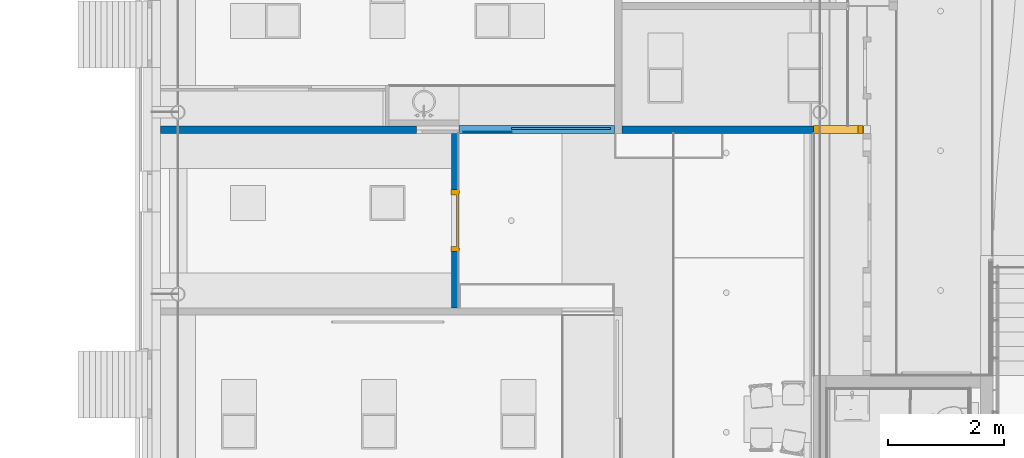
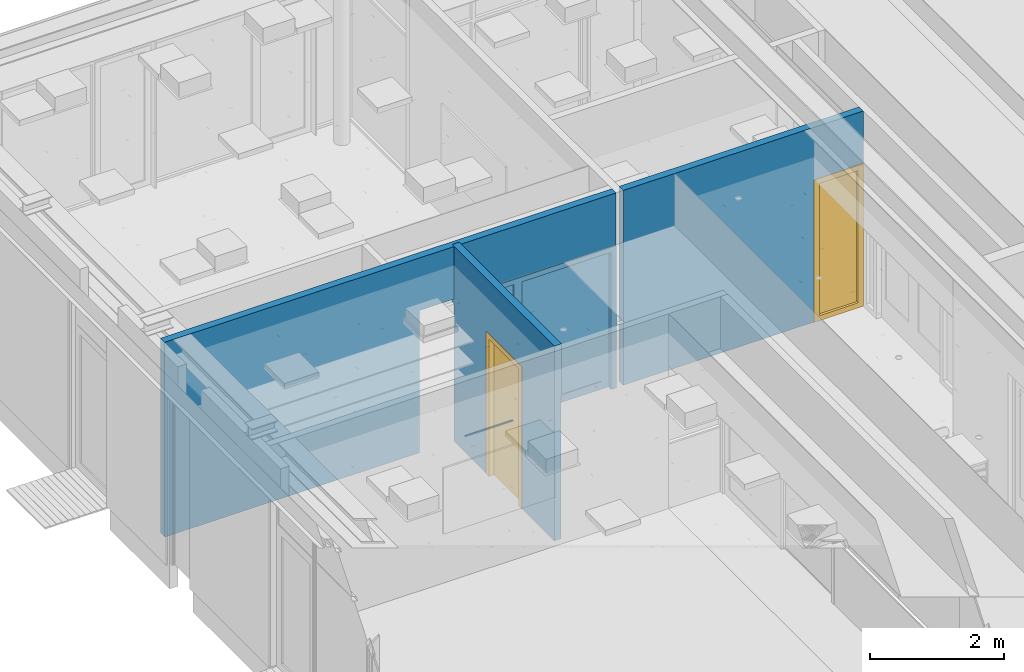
# One storey, part 64 of 347: 4 building element parts, 2 walls, 1 door, 1 window, 3 openings, 1 element without a shape of its own.
"""IFC2X3 building model written with IfcOpenShell, lengths in millimetres."""

from ifc_helpers import new_model, entity, si_unit, converted_unit, derived_unit, money_unit, direction, frame, origin_with_axes, place, context, subcontext, project, spatial, open_shell, faceted_brep, surface_model, source, transform, mapped, material, type_object, type_shapes, element, fill, aggregate, save


model = new_model("IFC2X3")

# Units and contexts
model_context = context("Model", 3, precision=0.01, world=origin_with_axes(), true_north=direction((0.0, 1.0)))
plan_context = context("Plan", 3, precision=0.01, world=origin_with_axes(), true_north=direction((0.0, 1.0)))
body_context = subcontext(model_context, "Body", "Model", "MODEL_VIEW")
ifc_project = project(units=[si_unit("LENGTHUNIT", "METRE", prefix="MILLI"), si_unit("AREAUNIT", "SQUARE_METRE"), si_unit("VOLUMEUNIT", "CUBIC_METRE"), converted_unit("PLANEANGLEUNIT", "DEGREE", entity("IfcPlaneAngleMeasure", 0.0174532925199), si_unit("PLANEANGLEUNIT", "RADIAN"), dimensions=[0, 0, 0, 0, 0, 0, 0]), money_unit("EUR"), converted_unit("TIMEUNIT", "Year", entity("IfcTimeMeasure", 31556926.0), si_unit("TIMEUNIT", "SECOND"), dimensions=[0, 0, 1, 0, 0, 0, 0]), si_unit("MASSUNIT", "GRAM", prefix="KILO"), si_unit("THERMODYNAMICTEMPERATUREUNIT", "DEGREE_CELSIUS"), si_unit("LUMINOUSINTENSITYUNIT", "LUMEN"), si_unit("ENERGYUNIT", "JOULE", prefix="MEGA"), derived_unit("THERMALCONDUCTANCEUNIT", [(si_unit("POWERUNIT", "WATT"), 1), (si_unit("LENGTHUNIT", "METRE"), -1), (si_unit("THERMODYNAMICTEMPERATUREUNIT", "KELVIN"), -1)]), derived_unit("SPECIFICHEATCAPACITYUNIT", [(si_unit("ENERGYUNIT", "JOULE"), 1), (si_unit("MASSUNIT", "GRAM", prefix="KILO"), -1), (si_unit("THERMODYNAMICTEMPERATUREUNIT", "KELVIN"), -1)]), derived_unit("MASSDENSITYUNIT", [(si_unit("MASSUNIT", "GRAM", prefix="KILO"), 1), (si_unit("VOLUMEUNIT", "CUBIC_METRE"), -1)])], contexts=[model_context, plan_context])

# Site, building, storey
site_placement = place(None, origin_with_axes())
site = spatial("IfcSite", under=ifc_project, at=site_placement, Name="Site", CompositionType="ELEMENT")
building_placement = place(site_placement, origin_with_axes())
building = spatial("IfcBuilding", under=site, at=building_placement, Name="Naam gebouw", CompositionType="ELEMENT")
storey_placement = place(building_placement, origin_with_axes())
storey = spatial("IfcBuildingStorey", under=building, at=storey_placement, Name="begane grond", CompositionType="ELEMENT", Elevation=0.0)

# Wall, openings, window
ifc_material_1 = material(Name="ALG - LICHTE SCHEIDINGSWAND")
wall_type = type_object("IfcWallType", Name="ALG LSW 125 125", PredefinedType="NOTDEFINED")
wall_1_placement = place(storey_placement, frame((24275.0, 39025.0, 0.0), z_axis=(0.0, 0.0, 1.0), x_axis=(1.0, 0.0, 0.0)))
wall_1 = element("IfcWall", 1, at=wall_1_placement, inside=storey, type_object=wall_type, material=ifc_material_1, Name="22_GF 125 ECO DGS/2.75.2A", context=body_context, shape_type="Brep", body=[
    faceted_brep([(11799.9995573, -62.5005331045, 2600.0), (11799.9995725, 62.5, 2600.0), (11799.9995725, 62.5, 2612.0), (11799.9995573, -62.5005331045, 2612.0), (11220.0, 62.5, 2600.0), (11220.0, -62.5005331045, 2600.0), (11220.0, 62.5, 0.0), (7925.0, 62.5, -1.48422776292e-05), (7925.0, 62.5, 3559.99999894), (12075.0, 62.5, 3559.99999995), (12075.0, 62.5, 2612.0), (12075.0, -62.5, 2612.0), (12075.0, -62.5, 3559.99999995), (7925.0, -62.5, 3559.99999894), (7925.0, -62.5, -1.48422776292e-05), (11220.0, -62.5, 0.0)], [[[0, 1, 2, 3]], [[4, 1, 0, 5]], [[4, 6, 7, 8, 9, 10, 2, 1]], [[3, 2, 10, 11]], [[5, 0, 3, 11, 12, 13, 14, 15]], [[6, 4, 5, 15]], [[6, 15, 14, 7]], [[14, 13, 8, 7]], [[9, 8, 13, 12]], [[12, 11, 10, 9]]]),
    faceted_brep([(12068.0, 62.5, 0.0), (12068.0, 62.5, 90.0), (12075.0, 62.5, 90.0), (12075.0, 62.5, -7.63317187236e-07), (12068.0, -62.5005331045, 90.0), (12068.0, -62.5, 0.0), (12075.0, -62.5, 90.0), (12075.0, -62.5, -7.63317187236e-07)], [[[0, 1, 2, 3]], [[4, 1, 0, 5]], [[1, 4, 6, 2]], [[2, 6, 7, 3]], [[5, 0, 3, 7]], [[4, 5, 7, 6]]]),
    faceted_brep([(12068.0, 62.5, 2510.0), (12068.0, 62.5, 2600.0), (12075.0, 62.5, 2600.0), (12075.0, 62.5, 2510.0), (12068.0, -62.5000135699, 2600.0), (12068.0, -62.5005331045, 2510.0), (12075.0, -62.5, 2600.0), (12075.0, -62.5, 2510.0)], [[[0, 1, 2, 3]], [[4, 1, 0, 5]], [[1, 4, 6, 2]], [[7, 3, 2, 6]], [[5, 0, 3, 7]], [[4, 5, 7, 6]]]),
    faceted_brep([(7800.0, -62.5, 2600.00000192), (7800.0, 62.5, 2600.00000192), (7800.0, 62.5, 3559.99999891), (7800.0, -62.5, 3559.99999891), (4400.0, 62.5, 2600.00000192), (4400.0, -62.5, 2600.00000192), (4400.0, 62.5, 0.0), (8.1956450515e-06, 62.5, -3.65078798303e-05), (8.1956450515e-06, 62.5, 3560.0), (8.1956450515e-06, -62.5, 3560.0), (8.1956450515e-06, -62.5, -3.65078798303e-05), (4400.0, -62.5, 0.0)], [[[0, 1, 2, 3]], [[4, 1, 0, 5]], [[4, 6, 7, 8, 2, 1]], [[8, 9, 3, 2]], [[5, 0, 3, 9, 10, 11]], [[6, 4, 5, 11]], [[6, 11, 10, 7]], [[8, 7, 10, 9]]]),
])
opening_1_placement = place(wall_1_placement, frame((11644.0, 0.0, 0.0), z_axis=(0.0, 0.0, 1.0), x_axis=(1.0, 0.0, 0.0)))
opening_1 = element("IfcOpeningElement", 2, at=opening_1_placement, cuts=wall_1, Name="31_07.01", context=body_context, shape_type="Brep", body=[
    faceted_brep([(424.0, -257.0, 2600.0), (424.0, -257.0, 0.0), (424.0, 125.0, 0.0), (424.0, 125.0, 2600.0), (-424.0, -257.0, 2600.0), (-424.0, -257.0, 0.0), (-424.0, 125.0, 0.0), (-424.0, 125.0, 2600.0)], [[[0, 1, 2, 3]], [[0, 4, 5, 1]], [[1, 5, 6, 2]], [[3, 2, 6, 7]], [[4, 0, 3, 7]], [[5, 4, 7, 6]]]),
])
opening_2_placement = place(wall_1_placement, frame((6100.0, 0.0, 0.0), z_axis=(0.0, 0.0, 1.0), x_axis=(1.0, 0.0, 0.0)))
opening_2 = element("IfcOpeningElement", 3, at=opening_2_placement, cuts=wall_1, Name="31_06.03", context=body_context, shape_type="Brep", body=[
    faceted_brep([(1700.0, -132.0, 2600.00000192), (1700.0, -132.0, 0.0), (1700.0, 132.0, 0.0), (1700.0, 132.0, 2600.00000192), (-1700.0, -132.0, 2600.00000192), (-1700.0, -132.0, 0.0), (-1700.0, 132.0, 0.0), (-1700.0, 132.0, 2600.00000192)], [[[0, 1, 2, 3]], [[0, 4, 5, 1]], [[1, 5, 6, 2]], [[3, 2, 6, 7]], [[4, 0, 3, 7]], [[5, 4, 7, 6]]]),
])
window_style = type_object("IfcWindowStyle", Name="Rmeerkeuze 25", ConstructionType="NOTDEFINED", OperationType="SINGLE_PANEL", ParameterTakesPrecedence=False, Sizeable=False)
window_placement = place(opening_1_placement, frame((424.0, 0.0, 0.0), z_axis=(0.0, 0.0, 1.0), x_axis=(-1.0, 0.0, 0.0)))
window = element("IfcWindow", 4, at=window_placement, inside=storey, type_object=window_style, Name="31_07.01", ObjectType="WINDOW", OverallHeight=2600.0, OverallWidth=848.0, context=body_context, shape_type="SurfaceModel", body=[
    faceted_brep([(758.0, -69.5, 2510.0), (848.0, -69.5, 2510.0), (848.0, 69.5, 2510.0), (758.0, 69.5, 2510.0), (758.0, -69.5, 90.0), (848.0, -69.5, 90.0), (848.0, 69.5, 90.0), (758.0, 69.5, 90.0)], [[[0, 1, 2, 3]], [[0, 4, 5, 1]], [[1, 5, 6, 2]], [[3, 2, 6, 7]], [[4, 0, 3, 7]], [[5, 4, 7, 6]]]),
    faceted_brep([(90.0, -69.5, 90.0), (0.0, -69.5, 90.0), (0.0, 69.5, 90.0), (90.0, 69.5, 90.0), (90.0, -69.5, 2510.0), (0.0, -69.5, 2510.0), (0.0, 69.5, 2510.0), (90.0, 69.5, 2510.0)], [[[0, 1, 2, 3]], [[0, 4, 5, 1]], [[1, 5, 6, 2]], [[3, 2, 6, 7]], [[4, 0, 3, 7]], [[5, 4, 7, 6]]]),
    faceted_brep([(758.0, -69.5, 90.0), (848.0, -69.5, 90.0), (848.0, 69.5, 90.0), (758.0, 69.5, 90.0), (90.0, -69.5, 90.0), (0.0, -69.5, 90.0), (0.0, -69.5, 0.0), (848.0, -69.5, 0.0), (848.0, 69.5, 0.0), (0.0, 69.5, 0.0), (0.0, 69.5, 90.0), (90.0, 69.5, 90.0)], [[[0, 1, 2, 3]], [[0, 4, 5, 6, 7, 1]], [[1, 7, 8, 2]], [[3, 2, 8, 9, 10, 11]], [[4, 0, 3, 11]], [[5, 4, 11, 10]], [[6, 5, 10, 9]], [[7, 6, 9, 8]]]),
    faceted_brep([(90.0, -69.5, 2510.0), (0.0, -69.5, 2510.0), (0.0, 69.5, 2510.0), (90.0, 69.5, 2510.0), (758.0, -69.5, 2510.0), (848.0, -69.5, 2510.0), (848.0, -69.5, 2600.0), (0.0, -69.5, 2600.0), (0.0, 69.5, 2600.0), (848.0, 69.5, 2600.0), (848.0, 69.5, 2510.0), (758.0, 69.5, 2510.0)], [[[0, 1, 2, 3]], [[0, 4, 5, 6, 7, 1]], [[1, 7, 8, 2]], [[3, 2, 8, 9, 10, 11]], [[4, 0, 3, 11]], [[5, 4, 11, 10]], [[6, 5, 10, 9]], [[7, 6, 9, 8]]]),
    surface_model("IfcShellBasedSurfaceModel", [(758.0, 5.5, 90.0), (758.0, 5.5, 2510.0), (90.0, 5.5, 2510.0), (90.0, 5.5, 90.0)], [open_shell([[[0, 1, 2, 3]]])]),
    surface_model("IfcShellBasedSurfaceModel", [(758.0, 25.5, 90.0), (90.0, 25.5, 90.0), (90.0, 25.5, 2510.0), (758.0, 25.5, 2510.0)], [open_shell([[[0, 1, 2, 3]]])]),
])
fill(opening_1, window)

# Wall, opening, door
wall_2_placement = place(storey_placement, frame((29400.0, 39022.5, 0.0), z_axis=(0.0, 0.0, 1.0), x_axis=(0.0, -1.0, 0.0)))
wall_2 = element("IfcWall", 5, at=wall_2_placement, inside=storey, type_object=wall_type, material=ifc_material_1, Name="22_GF 125 ECO DGS/2.75.2A", context=body_context, shape_type="Brep", body=[
    faceted_brep([(2091.99998207, 0.0, 2600.0), (1027.99998207, 0.0, 2600.0), (60.0, 0.0, 2600.0), (60.0, 0.0, 2510.0), (0.0, 0.0, 2510.0), (0.0, 0.0, 3560.0), (3060.0, 0.0, 3560.0), (3060.0, 0.0, 2600.0), (1027.99998207, -12.5, 2600.0), (2091.99998207, -12.5, 2600.0), (2091.99998207, -125.0, 2600.0), (1027.99998207, -125.0, 2600.0), (60.0, -12.5, 2600.0), (60.0, -12.5, 2510.0), (60.0, -125.0, 2510.0), (0.0, -125.0, 2510.0), (0.0, -125.0, 3560.0), (3060.0, -125.0, 3560.0), (3060.0, -125.0, 0.0), (3060.0, -12.5, 0.0), (3060.0, -12.5, 2600.0), (2091.99998207, -12.5, 0.0), (2091.99998207, -125.0, 0.0), (60.0, -125.0, 0.0), (1027.99998207, -125.0, 0.0), (1027.99998207, -12.5, 0.0), (60.0, -12.5, 0.0)], [[[0, 1, 2, 3, 4, 5, 6, 7]], [[8, 1, 0, 9, 10, 11]], [[1, 8, 12, 2]], [[3, 2, 12, 13]], [[13, 14, 15, 4, 3]], [[5, 4, 15, 16]], [[17, 6, 5, 16]], [[6, 17, 18, 19, 20, 7]], [[9, 0, 7, 20]], [[9, 21, 22, 10]], [[10, 22, 18, 17, 16, 15, 14, 23, 24, 11]], [[25, 8, 11, 24]], [[8, 25, 26, 13, 12]], [[13, 26, 23, 14]], [[22, 21, 19, 18]], [[21, 9, 20, 19]], [[25, 24, 23, 26]]]),
])
opening_3_placement = place(wall_2_placement, frame((1559.99998207, 0.0, 0.0), z_axis=(0.0, 0.0, 1.0), x_axis=(1.0, 0.0, 0.0)))
opening_3 = element("IfcOpeningElement", 6, at=opening_3_placement, cuts=wall_2, Name="32_01.03", context=body_context, shape_type="Brep", body=[
    faceted_brep([(-532.0, 257.0, 2600.0), (-532.0, 257.0, 0.0), (-532.0, -125.0, 0.0), (-532.0, -125.0, 2600.0), (532.0, 257.0, 2600.0), (532.0, 257.0, 0.0), (532.0, -125.0, 0.0), (532.0, -125.0, 2600.0)], [[[0, 1, 2, 3]], [[0, 4, 5, 1]], [[1, 5, 6, 2]], [[3, 2, 6, 7]], [[4, 0, 3, 7]], [[5, 4, 7, 6]]]),
])
door_style_1 = type_object("IfcDoorStyle", Name="D1 25", ConstructionType="NOTDEFINED", OperationType="SINGLE_SWING_LEFT", ParameterTakesPrecedence=False, Sizeable=False)
shared_shape_1 = source(origin_with_axes(), body_context, "Body", "Brep", [
    faceted_brep([(442.0, -50.0, 0.0), (442.0, -139.0, 0.0), (442.0, -139.0, 2510.0), (442.0, -50.0, 2510.0), (467.0, -50.0, 0.0), (467.0, 0.0, 0.0), (532.0, 0.0, 0.0), (532.0, -139.0, 0.0), (532.0, -139.0, 2510.0), (467.0, -50.0, 2510.0), (532.0, 0.0, 2510.0), (467.0, 0.0, 2510.0)], [[[0, 1, 2, 3]], [[4, 5, 6, 7, 1, 0]], [[1, 7, 8, 2]], [[9, 3, 2, 8, 10, 11]], [[9, 4, 0, 3]], [[11, 5, 4, 9]], [[11, 10, 6, 5]], [[6, 10, 8, 7]]]),
    faceted_brep([(-467.0, -50.0, 2510.0), (-467.0, 0.0, 2510.0), (-532.0, 0.0, 2510.0), (-532.0, -139.0, 2510.0), (-442.0, -139.0, 2510.0), (-442.0, -50.0, 2510.0), (-467.0, -50.0, 0.0), (-467.0, 0.0, 0.0), (-532.0, 0.0, 0.0), (-532.0, -139.0, 0.0), (-442.0, -139.0, 0.0), (-442.0, -50.0, 0.0)], [[[0, 1, 2, 3, 4, 5]], [[0, 6, 7, 1]], [[7, 8, 2, 1]], [[2, 8, 9, 3]], [[3, 9, 10, 4]], [[5, 4, 10, 11]], [[5, 11, 6, 0]], [[6, 11, 10, 9, 8, 7]]]),
    faceted_brep([(467.0, 0.0, 2535.0), (-467.0, 0.0, 2535.0), (-467.0, 0.0, 2510.0), (-532.0, 0.0, 2510.0), (-532.0, 0.0, 2600.0), (532.0, 0.0, 2600.0), (532.0, 0.0, 2510.0), (467.0, 0.0, 2510.0), (467.0, -50.0, 2535.0), (-467.0, -50.0, 2535.0), (-467.0, -50.0, 2510.0), (-442.0, -50.0, 2510.0), (-442.0, -139.0, 2510.0), (-532.0, -139.0, 2510.0), (-532.0, -139.0, 2600.0), (532.0, -139.0, 2600.0), (532.0, -139.0, 2510.0), (467.0, -50.0, 2510.0), (442.0, -139.0, 2510.0), (442.0, -50.0, 2510.0)], [[[0, 1, 2, 3, 4, 5, 6, 7]], [[0, 8, 9, 1]], [[1, 9, 10, 2]], [[10, 11, 12, 13, 3, 2]], [[4, 3, 13, 14]], [[5, 4, 14, 15]], [[6, 5, 15, 16]], [[17, 7, 6, 16, 18, 19]], [[7, 17, 8, 0]], [[10, 9, 8, 17, 19, 11]], [[19, 18, 12, 11]], [[12, 18, 16, 15, 14, 13]]]),
    faceted_brep([(-467.0, -10.0, 0.0), (467.0, -10.0, 0.0), (467.0, -50.0, 0.0), (-467.0, -50.0, 0.0), (-467.0, -10.0, 2535.0), (467.0, -10.0, 2535.0), (467.0, -50.0, 2535.0), (-467.0, -50.0, 2535.0)], [[[0, 1, 2, 3]], [[0, 4, 5, 1]], [[1, 5, 6, 2]], [[3, 2, 6, 7]], [[4, 0, 3, 7]], [[5, 4, 7, 6]]]),
])
type_shapes(door_style_1, [shared_shape_1])
door_1_placement = place(opening_3_placement, frame((-532.0, 0.0, 0.0), z_axis=(0.0, 0.0, 1.0), x_axis=(1.0, 0.0, 0.0)))
door_1 = element("IfcDoor", 7, at=door_1_placement, inside=storey, type_object=door_style_1, Name="32_01.03", ObjectType="DOOR", OverallHeight=2600.0, OverallWidth=1064.0, context=body_context, shape_type="MappedRepresentation", body=[
    mapped(shared_shape_1, transform((532.0, 7.0, 0.0))),
])
fill(opening_3, door_1)

# Door
door_style_2 = type_object("IfcDoorStyle", Name="32 schuifdeurkozijn 2675 KRAR", ConstructionType="NOTDEFINED", OperationType="NOTDEFINED", ParameterTakesPrecedence=False, Sizeable=False)
door_2_placement = place(opening_2_placement, frame((-1700.0, 0.0, 0.0), z_axis=(0.0, 0.0, 1.0), x_axis=(1.0, 0.0, 0.0)))
door_2 = element("IfcDoor", 8, at=door_2_placement, inside=storey, type_object=door_style_2, Name="31_06.03", ObjectType="DOOR", OverallHeight=2600.0, OverallWidth=3400.0)

fill(opening_2, door_2)

# Building element part
ifc_material_2 = material(Name="Glas")
shared_shape_2 = source(origin_with_axes(), body_context, "Body", "Brep", [
    faceted_brep([(-69.5, -116.000001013, 25.0000000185), (-69.5, -116.000001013, 2510.00002918), (-902.00000001, -115.999999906, 2510.00003068), (-902.00000001, -116.000000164, 25.0000000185), (-69.5, -103.000000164, 2510.00002681), (-69.5, -103.000000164, 25.0000000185), (-902.00000001, -103.000000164, 2510.00003202), (-902.00000001, -103.000000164, 25.0000000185)], [[[0, 1, 2, 3]], [[4, 1, 0, 5]], [[1, 4, 6, 2]], [[2, 6, 7, 3]], [[5, 0, 3, 7]], [[4, 5, 7, 6]]]),
])
building_element_part_1_placement = place(door_2_placement, origin_with_axes())
building_element_part_1 = element("IfcBuildingElementPart", 9, at=building_element_part_1_placement, material=ifc_material_2, Name="Glas", context=body_context, shape_type="MappedRepresentation", body=[
    mapped(shared_shape_2, transform((1700.0, 69.5, 0.0))),
])

ifc_material_3 = material(Name="Metaal - Aluminium")
shared_shape_3 = source(origin_with_axes(), body_context, "Body", "Brep", [
    faceted_brep([(-902.00000001, -97.0000001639, 0.0), (-69.5, -97.0000001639, 0.0), (-69.5, -122.000000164, 0.0), (-902.00000001, -122.000000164, 0.0), (-902.00000001, -97.0000001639, 25.0000000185), (-69.5, -97.0000001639, 25.0000000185), (-69.5, -122.000000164, 25.0000000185), (-902.00000001, -122.000000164, 25.0000000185)], [[[0, 1, 2, 3]], [[0, 4, 5, 1]], [[1, 5, 6, 2]], [[3, 2, 6, 7]], [[4, 0, 3, 7]], [[5, 4, 7, 6]]]),
])
building_element_part_2_placement = place(door_2_placement, origin_with_axes())
building_element_part_2 = element("IfcBuildingElementPart", 10, at=building_element_part_2_placement, material=ifc_material_3, Name="Metaal - Aluminium", context=body_context, shape_type="MappedRepresentation", body=[
    mapped(shared_shape_3, transform((1700.0, 69.5, 0.0))),
])

ifc_material_4 = material(Name="32 Hout binnenkozijn oregon pine")
shared_shape_4 = source(origin_with_axes(), body_context, "Body", "Brep", [
    faceted_brep([(-974.99999792, -71.9999996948, 0.000850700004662), (-885.00000001, -71.9999996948, 0.000850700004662), (-885.00000001, -138.999999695, 0.000850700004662), (-974.99999792, -138.999999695, 0.000850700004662), (-974.99999792, -71.9999996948, 2510.00003655), (-885.00000001, -71.9999996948, 2510.00003655), (-885.00000001, -138.999999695, 2510.00003655), (-974.99999792, -138.999999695, 2510.00003655)], [[[0, 1, 2, 3]], [[0, 4, 5, 1]], [[1, 5, 6, 2]], [[3, 2, 6, 7]], [[4, 0, 3, 7]], [[5, 4, 7, 6]]]),
    faceted_brep([(-52.5000001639, -96.9999998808, 2510.00002571), (-52.5000001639, -96.9999998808, 2527.00002573), (-52.5000001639, -121.999999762, 2527.00003181), (-52.5000001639, -121.999999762, 2510.00003028), (-52.5000001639, -72.0, 2510.00001957), (-52.5000001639, -72.0, 2527.00001958), (-169.5, -97.0000021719, 2527.00002573), (-169.5, -122.000002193, 2527.00003181), (-169.5, -122.000002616, 2510.00003028), (-975.0, -97.0000221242, 2510.00002571), (-975.0, -122.000022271, 2510.00003028), (-975.0, -72.0000221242, 2510.00001957), (4.90274487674e-10, -72.0000212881, 2510.00001919), (4.90274487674e-10, -72.0000071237, 2569.00001862), (-169.5, -72.0000073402, 2569.00001862), (-169.5, -72.000002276, 2527.00001958), (-169.5, -72.0000010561, 2600.0000026), (-169.5, -139.0, 2600.00000384), (-169.5, -139.0, 2510.00000172), (-975.0, -139.000022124, 2510.00003606), (-975.0, -139.000001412, 2600.00003801), (-975.0, 0.0, 2600.00000192), (-975.0, -2.21242113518e-05, 2510.00000187), (-975.0, -27.0000228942, 2510.00000858), (4.90274487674e-10, -27.0000204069, 2510.00000623), (4.90274487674e-10, 0.0, 2600.00000374), (4.90274487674e-10, -72.0000010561, 2600.0000026), (4.90274487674e-10, -2.16067057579e-05, 2510.00000191)], [[[0, 1, 2, 3]], [[1, 0, 4, 5]], [[1, 6, 7, 2]], [[2, 7, 8, 3]], [[9, 0, 3, 8, 10]], [[0, 9, 11, 4]], [[5, 4, 12, 13, 14, 15]], [[6, 1, 5, 15]], [[6, 15, 14, 16, 17, 18, 8, 7]], [[19, 10, 8, 18]], [[9, 10, 19, 20, 21, 22, 23, 11]], [[4, 11, 23, 24, 12]], [[25, 26, 13, 12, 24, 27]], [[26, 16, 14, 13]], [[26, 25, 21, 20, 17, 16]], [[18, 17, 20, 19]], [[25, 27, 22, 21]], [[22, 27, 24, 23]]]),
    faceted_brep([(1634.9999999, -72.0000001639, 2510.00000187), (1634.9999999, -72.0000001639, 2569.00000054), (1699.99999792, -72.0000003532, 2569.00000131), (1699.99999792, -72.0000004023, 2510.00000172), (1634.9999999, -26.9999993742, 2569.00000388), (1634.9999999, -26.9999993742, 2510.00000187), (1699.99999792, -27.0000000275, 2569.00000339), (1699.99999792, -27.0, 2600.00000193), (1699.99999792, -138.999999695, 2600.00000384), (1699.99999792, -138.999999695, 2510.00000172), (69.5000004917, -71.9999995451, 2509.99999993), (-169.5, -139.0, 2510.00000172), (-169.5, -121.999999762, 2510.00003028), (69.5000004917, -121.999999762, 2510.00003028), (0.0, -71.9999995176, 2509.99999985), (0.0, -27.0000014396, 2509.99999985), (1699.99999792, -27.00000008, 2510.00000176), (1699.99999792, 0.0, 2600.00000184), (1699.99999792, 0.0, 2510.00000176), (0.0, 0.0, 2600.00000039), (0.0, -71.9999995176, 2600.00000471), (-169.5, -71.9999995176, 2600.00000471), (-169.5, -139.0, 2600.00000384), (-169.5, -72.0, 2527.0000179), (-169.5, -122.000020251, 2527.00003235), (-169.5, -71.9999995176, 2569.00000131), (69.5000004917, -122.000020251, 2527.00003235), (69.5000004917, -72.0000001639, 2527.0000179), (0.0, -71.9999995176, 2527.0000179), (0.0, -71.9999995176, 2569.00000054), (0.0, -26.9999993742, 2569.00000388), (0.0, 0.0, 2509.99999985)], [[[0, 1, 2, 3]], [[4, 1, 0, 5]], [[1, 4, 6, 2]], [[2, 6, 7, 8, 9, 3]], [[10, 0, 3, 9, 11, 12, 13]], [[0, 10, 14, 15, 5]], [[4, 5, 16, 6]], [[17, 7, 6, 16, 18]], [[19, 20, 21, 22, 8, 7, 17]], [[8, 22, 11, 9]], [[23, 24, 12, 11, 22, 21, 25]], [[26, 13, 12, 24]], [[27, 10, 13, 26]], [[10, 27, 28, 14]], [[28, 29, 30, 15, 14]], [[5, 15, 31, 18, 16]], [[31, 19, 17, 18]], [[30, 29, 20, 19, 31, 15]], [[29, 28, 23, 25, 21, 20]], [[28, 27, 26, 24, 23]]]),
    faceted_brep([(1634.9999999, -72.0000004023, 2569.00000131), (1699.99999792, -72.0000004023, 2569.00000131), (1699.99999792, -26.9999993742, 2569.00000274), (1634.9999999, -26.9999993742, 2569.00000274), (1699.99999792, -72.0000004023, 2510.00000172), (1634.9999999, -72.0000004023, 2510.00000172), (1699.99999792, -138.999999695, 2510.00000172), (1700.0, -139.0, 2.02504679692e-10), (1700.0, 0.0, 2.02504679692e-10), (1699.99999792, 0.0, 2510.00000176), (1699.99999792, -27.00000008, 2510.00000176), (1634.9999999, -27.000000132, 2510.00000168), (1634.9999999, 0.0, 2510.00000168), (1634.9999999, 0.0, 2.02504679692e-10), (1634.9999999, -72.0000001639, 2.02504679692e-10), (1610.00000001, -138.999999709, 2510.00000172), (1610.00000001, -72.0000004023, 2510.00000172), (1610.00000001, -139.0, 2.02504679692e-10), (1610.00000001, -72.0000001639, 2.02504679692e-10)], [[[0, 1, 2, 3]], [[4, 1, 0, 5]], [[4, 6, 7, 8, 9, 10, 2, 1]], [[3, 2, 10, 11]], [[5, 0, 3, 11, 12, 13, 14]], [[15, 6, 4, 5, 16]], [[6, 15, 17, 7]], [[18, 14, 13, 8, 7, 17]], [[12, 9, 8, 13]], [[10, 9, 12, 11]], [[16, 5, 14, 18]], [[15, 16, 18, 17]]]),
    faceted_brep([(-52.5000001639, -72.0, 2510.00001957), (-52.5000001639, -96.9999998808, 2510.00002571), (-52.5000001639, -121.999999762, 2510.00003028), (-52.5000001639, -122.000018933, 2527.00003184), (-52.5000001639, -72.0000021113, 2527.0000179), (-69.5, -97.0000002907, 2510.00002571), (-69.5, -72.0000004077, 2510.00001957), (-69.5, -122.000000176, 2510.00003028), (69.5000009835, -122.000021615, 2510.00002985), (69.5000009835, -122.000018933, 2527.00003184), (69.5000009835, -72.0, 2527.0000179), (69.5, -72.0, -1.98951966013e-10), (-69.5, -72.0, -1.98951966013e-10), (-69.5, -97.0000001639, -1.98951966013e-10), (-69.5, -121.999999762, -1.98951966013e-10), (-69.5, -139.000002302, 2510.00003655), (69.5000009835, -138.99999924, 2510.00003655), (69.5, -138.999999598, -1.98951966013e-10), (-69.5, -138.999999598, -1.98951966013e-10), (-52.5000001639, -121.999999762, -1.98951966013e-10), (-52.5, -97.0000001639, -1.98951966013e-10)], [[[0, 1, 2, 3, 4]], [[5, 1, 0, 6]], [[1, 5, 7, 2]], [[3, 2, 8, 9]], [[10, 4, 3, 9]], [[0, 4, 10, 11, 12, 6]], [[13, 5, 6, 12]], [[5, 13, 14, 7]], [[8, 2, 7, 15, 16]], [[10, 9, 8, 16, 17, 11]], [[12, 11, 17, 18, 14, 19, 20, 13]], [[13, 20, 19, 14]], [[15, 7, 14, 18]], [[18, 17, 16, 15]]]),
])
building_element_part_3_placement = place(door_2_placement, origin_with_axes())
building_element_part_3 = element("IfcBuildingElementPart", 11, at=building_element_part_3_placement, material=ifc_material_4, Name="32 Hout binnenkozijn oregon pine", context=body_context, shape_type="MappedRepresentation", body=[
    mapped(shared_shape_4, transform((1700.0, 69.5, 0.0))),
])

shared_shape_5 = source(origin_with_axes(), body_context, "Body", "SurfaceModel", [
    faceted_brep([(1627.0, -30.0000001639, 150.000034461), (1627.0, -70.0000001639, 150.000034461), (1488.0, -70.0000001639, 150.000034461), (1488.0, -30.0000001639, 150.000034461), (1627.0, -30.0000001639, 2371.00003597), (1627.0, -70.0000001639, 2371.00003597), (1488.0, -70.0000001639, 2371.00003597), (1488.0, -30.0000001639, 2371.00003597)], [[[0, 1, 2, 3]], [[4, 5, 1, 0]], [[1, 5, 6, 2]], [[3, 2, 6, 7]], [[0, 3, 7, 4]], [[7, 6, 5, 4]]]),
    faceted_brep([(-69.5, -30.0000001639, 150.000034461), (-69.5, -70.0000001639, 150.000034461), (-69.5, -70.0000001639, 2371.00003597), (-69.5, -30.0000001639, 2371.00003597), (69.5, -30.0000001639, 150.000034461), (69.5, -70.0000001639, 150.000034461), (69.5, -70.0000001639, 2371.00003597), (69.5, -30.0000001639, 2371.00003597)], [[[0, 1, 2, 3]], [[4, 5, 1, 0]], [[1, 5, 6, 2]], [[3, 2, 6, 7]], [[0, 3, 7, 4]], [[7, 6, 5, 4]]]),
    faceted_brep([(1627.0, -30.0000001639, 11.0000343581), (1627.0, -70.0000001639, 11.0000343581), (-69.5, -70.0000001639, 11.0000343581), (-69.5, -30.0000001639, 11.0000343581), (1627.0, -30.0000001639, 150.000034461), (1627.0, -70.0000001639, 150.000034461), (1488.0, -70.0000001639, 150.000034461), (69.5, -70.0000001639, 150.000034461), (-69.5, -70.0000001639, 150.000034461), (-69.5, -30.0000001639, 150.000034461), (69.5, -30.0000001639, 150.000034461), (1488.0, -30.0000001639, 150.000034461)], [[[0, 1, 2, 3]], [[4, 5, 1, 0]], [[1, 5, 6, 7, 8, 2]], [[3, 2, 8, 9]], [[0, 3, 9, 10, 11, 4]], [[11, 6, 5, 4]], [[10, 7, 6, 11]], [[9, 8, 7, 10]]]),
    faceted_brep([(1627.0, -30.0000001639, 2510.00003607), (1627.0, -70.0000001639, 2510.00003607), (1627.0, -70.0000001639, 2371.00003597), (1627.0, -30.0000001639, 2371.00003597), (-69.5, -30.0000001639, 2510.00003607), (-69.5, -70.0000001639, 2510.00003607), (-69.5, -70.0000001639, 2371.00003597), (69.5, -70.0000001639, 2371.00003597), (1488.0, -70.0000001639, 2371.00003597), (1488.0, -30.0000001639, 2371.00003597), (69.5, -30.0000001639, 2371.00003597), (-69.5, -30.0000001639, 2371.00003597)], [[[0, 1, 2, 3]], [[4, 5, 1, 0]], [[1, 5, 6, 7, 8, 2]], [[3, 2, 8, 9]], [[0, 3, 9, 10, 11, 4]], [[11, 6, 5, 4]], [[10, 7, 6, 11]], [[9, 8, 7, 10]]]),
    surface_model("IfcShellBasedSurfaceModel", [(1488.0, -43.5000001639, 150.000034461), (69.5, -43.5000001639, 150.000034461), (69.5, -43.5000001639, 2371.00003597), (1488.0, -43.5000001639, 2371.00003597)], [open_shell([[[0, 1, 2, 3]]])]),
    surface_model("IfcShellBasedSurfaceModel", [(1488.0, -56.5000001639, 150.000034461), (1488.0, -56.5000001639, 2371.00003597), (69.5, -56.5000001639, 2371.00003597), (69.5, -56.5000001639, 150.000034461)], [open_shell([[[0, 1, 2, 3]]])]),
])
building_element_part_4_placement = place(door_2_placement, origin_with_axes())
building_element_part_4 = element("IfcBuildingElementPart", 12, at=building_element_part_4_placement, context=body_context, shape_type="MappedRepresentation", body=[
    mapped(shared_shape_5, transform((1700.0, 69.5, 0.0))),
])

aggregate(door_2, [building_element_part_1, building_element_part_2, building_element_part_3, building_element_part_4])

save(model, "model.ifc")
